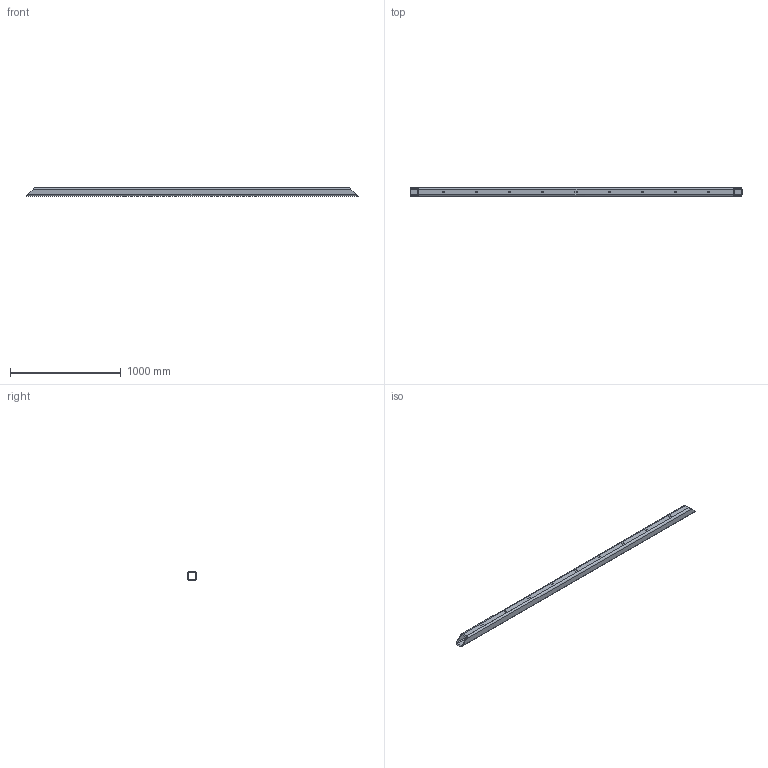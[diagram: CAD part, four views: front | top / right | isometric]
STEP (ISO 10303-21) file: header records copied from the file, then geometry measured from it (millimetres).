
FILE_DESCRIPTION(('Open CASCADE Model'),'2;1');
FILE_NAME('Open CASCADE Shape Model','2016-07-13T10:54:16',('Author'),( 'Open CASCADE'),'Open CASCADE STEP processor 6.8','Open CASCADE 6.8' ,'Unknown');
FILE_SCHEMA(('AUTOMOTIVE_DESIGN_CC2 { 1 2 10303 214 -1 1 5 4 }'));
Length unit declared in the file: millimetre
Products named in the file (1): Open CASCADE STEP translator 6.8 1
Bounding box: 3000 x 80 x 80 mm (x, y, z)
Volume: 6232022.5 mm3; surface area: 1568376.2 mm2
Topology: 1 solids, 1 shells, 54 faces, 156 edges, 104 vertices
Faces by surface type: plane 46, cylinder 8
Entity records: 3914 total; most frequent: CARTESIAN_POINT 771, DIRECTION 562, LINE 404, VECTOR 404, ORIENTED_EDGE 312, PCURVE 312, DEFINITIONAL_REPRESENTATION 312, EDGE_CURVE 156
